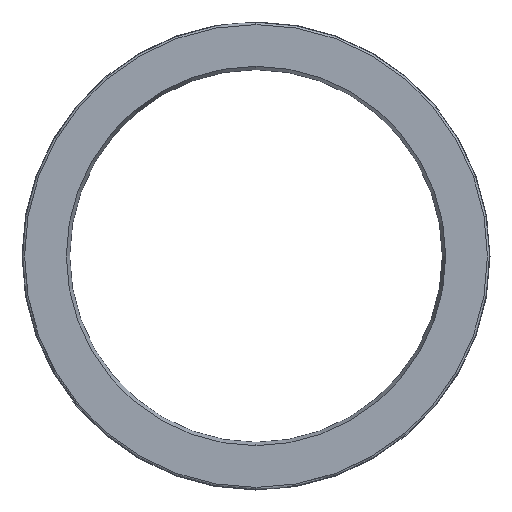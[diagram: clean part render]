
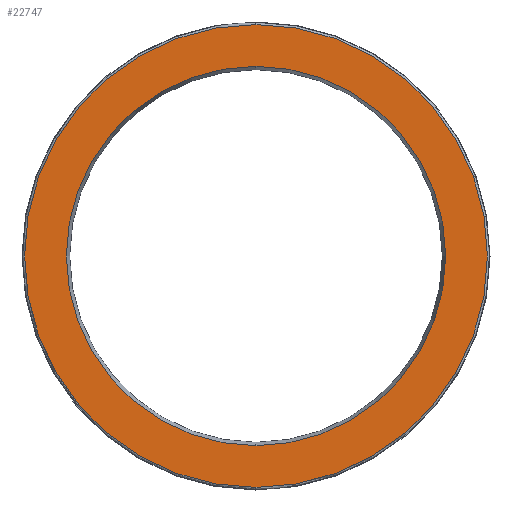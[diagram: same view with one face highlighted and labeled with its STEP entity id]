
A CAD part, left-side view. The second image highlights one B-rep face of the part: STEP entity #22747.
In plain terms, the highlighted planar face has unit normal (-1, 0, 0).
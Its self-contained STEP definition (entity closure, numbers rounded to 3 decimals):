
#671 = VERTEX_POINT ( 'NONE', #23384 ) ;
#880 = CARTESIAN_POINT ( 'NONE',  ( -6.706, 1.473, 21.513 ) ) ;
#1804 = DIRECTION ( 'NONE',  ( -1., 0., 0. ) ) ;
#2184 = VERTEX_POINT ( 'NONE', #880 ) ;
#2292 = VERTEX_POINT ( 'NONE', #19305 ) ;
#3376 = DIRECTION ( 'NONE',  ( 0., 0., -1. ) ) ;
#3717 = PLANE ( 'NONE',  #26153 ) ;
#3921 = DIRECTION ( 'NONE',  ( 0., 0., -1. ) ) ;
#4298 = ORIENTED_EDGE ( 'NONE', *, *, #18282, .T. ) ;
#4410 = ORIENTED_EDGE ( 'NONE', *, *, #8084, .T. ) ;
#4417 = DIRECTION ( 'NONE',  ( 1., 0., 0. ) ) ;
#4739 = CARTESIAN_POINT ( 'NONE',  ( -6.706, 1.473, -3.337 ) ) ;
#5534 = CIRCLE ( 'NONE', #19084, 24.85 ) ;
#6598 = DIRECTION ( 'NONE',  ( 1., 0., 0. ) ) ;
#7150 = ORIENTED_EDGE ( 'NONE', *, *, #13857, .T. ) ;
#7496 = EDGE_LOOP ( 'NONE', ( #4410, #4298 ) ) ;
#7823 = CARTESIAN_POINT ( 'NONE',  ( -6.706, 26.523, -3.337 ) ) ;
#7931 = CARTESIAN_POINT ( 'NONE',  ( -6.706, 1.473, -23.701 ) ) ;
#7983 = CARTESIAN_POINT ( 'NONE',  ( -6.706, 1.473, -3.337 ) ) ;
#8084 = EDGE_CURVE ( 'NONE', #671, #15846, #19047, .T. ) ;
#8163 = CARTESIAN_POINT ( 'NONE',  ( -6.706, 1.473, -3.337 ) ) ;
#9930 = EDGE_CURVE ( 'NONE', #2184, #2292, #5534, .T. ) ;
#11108 = DIRECTION ( 'NONE',  ( 0., 0., -1. ) ) ;
#13857 = EDGE_CURVE ( 'NONE', #2292, #2184, #19767, .T. ) ;
#14504 = CARTESIAN_POINT ( 'NONE',  ( -6.706, 1.473, -3.337 ) ) ;
#15846 = VERTEX_POINT ( 'NONE', #7931 ) ;
#16069 = DIRECTION ( 'NONE',  ( -1., 0., 0. ) ) ;
#16749 = AXIS2_PLACEMENT_3D ( 'NONE', #8163, #1804, #3921 ) ;
#18185 = CIRCLE ( 'NONE', #18629, 20.364 ) ;
#18282 = EDGE_CURVE ( 'NONE', #15846, #671, #18185, .T. ) ;
#18629 = AXIS2_PLACEMENT_3D ( 'NONE', #14504, #4417, #22743 ) ;
#19047 = CIRCLE ( 'NONE', #20742, 20.364 ) ;
#19084 = AXIS2_PLACEMENT_3D ( 'NONE', #7983, #16069, #3376 ) ;
#19305 = CARTESIAN_POINT ( 'NONE',  ( -6.706, 1.473, -28.187 ) ) ;
#19767 = CIRCLE ( 'NONE', #16749, 24.85 ) ;
#20742 = AXIS2_PLACEMENT_3D ( 'NONE', #4739, #6598, #11108 ) ;
#21607 = EDGE_LOOP ( 'NONE', ( #7150, #23515 ) ) ;
#21762 = DIRECTION ( 'NONE',  ( 0., 0., -1. ) ) ;
#22025 = FACE_BOUND ( 'NONE', #7496, .T. ) ;
#22743 = DIRECTION ( 'NONE',  ( 0., 0., -1. ) ) ;
#22747 = ADVANCED_FACE ( 'NONE', ( #22025, #26066 ), #3717, .F. ) ;
#23384 = CARTESIAN_POINT ( 'NONE',  ( -6.706, 1.473, 17.027 ) ) ;
#23515 = ORIENTED_EDGE ( 'NONE', *, *, #9930, .T. ) ;
#23920 = DIRECTION ( 'NONE',  ( 1., 0., 0. ) ) ;
#26066 = FACE_OUTER_BOUND ( 'NONE', #21607, .T. ) ;
#26153 = AXIS2_PLACEMENT_3D ( 'NONE', #7823, #23920, #21762 ) ;
